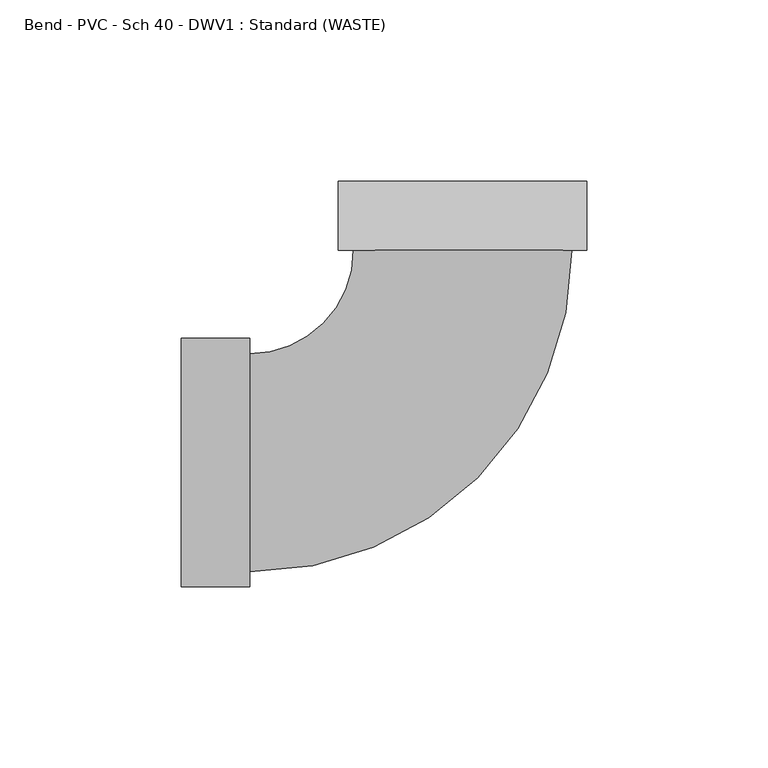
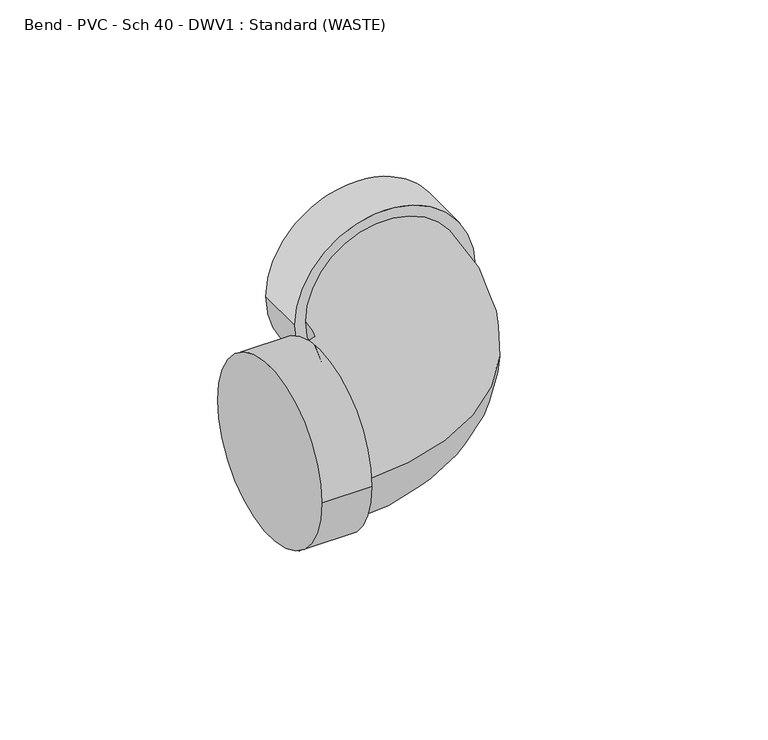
"""IFC4 building model written with IfcOpenShell, lengths in millimetres: pipe fitting geometry, Bend - PVC - Sch 40 - DWV1 : Standard (WASTE)."""

from ifc_helpers import new_model, si_unit, point, frame, origin, place, context, project, spatial, circle_curve, ellipse_curve, trimmed, source, transform, mapped, element, save
from ifc_brep_helpers import plane_surface, cylinder_surface, revolved_surface, advanced_brep


def bend_pvc_sch_40_dwv1_standard_waste_d5026f95(model_context):
    return source(origin(), model_context, "Body", "AdvancedBrep", [
        advanced_brep(
        [(-77.8002, -34.3154, 0.0), (-77.8002, 34.3154, 0.0), (-58.7502, -34.3154, 0.0), (-58.7502, 34.3154, 0.0), (-58.7502, -30.1625, 0.0), (-58.7502, 30.1625, 0.0), (-30.1630087, 58.7499388, 0.0), (30.1619913, 58.7504612, 0.0), (34.3148913, 58.7504971, 0.0), (-34.3159087, 58.7499028, 0.0), (34.3147263, 77.8004971, 0.0), (-34.3160737, 77.7999028, 0.0)],
        [
            (0, 1, circle_curve(frame((-77.8002, 0.0, 0.0), z_axis=(-1.0, 0.0, 0.0), x_axis=(0.0, 1.0, 0.0)), 34.3154)),
            (1, 0, circle_curve(frame((-77.8002, 0.0, 0.0), z_axis=(-1.0, 0.0, 0.0), x_axis=(0.0, 1.0, 0.0)), 34.3154)),
            (2, 3, circle_curve(frame((-58.7502, 0.0, 0.0), z_axis=(1.0, 0.0, 0.0), x_axis=(0.0, 1.0, 0.0)), 34.3154)),
            (3, 2, circle_curve(frame((-58.7502, 0.0, 0.0), z_axis=(1.0, 0.0, 0.0), x_axis=(0.0, 1.0, 0.0)), 34.3154)),
            (4, 5, circle_curve(frame((-58.7502, 0.0, 0.0), z_axis=(-1.0, 0.0, 0.0), x_axis=(0.0, 1.0, 0.0)), 30.1625)),
            (5, 4, circle_curve(frame((-58.7502, 0.0, 0.0), z_axis=(-1.0, 0.0, 0.0), x_axis=(0.0, 1.0, 0.0)), 30.1625)),
            (0, 2),
            (3, 1),
            (6, 5, circle_curve(frame((-58.7502, 58.7496913, 0.0), z_axis=(0.0, 0.0, -1.0), x_axis=(0.0, -1.0, 0.0)), 28.5871913)),
            (4, 7, circle_curve(frame((-58.7502, 58.7496913, 0.0), z_axis=(0.0, 0.0, 1.0), x_axis=(0.0, -1.0, 0.0)), 88.9121913)),
            (7, 6, circle_curve(frame((-0.0005087, 58.7502, 0.0), z_axis=(8.659433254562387e-06, -0.9999999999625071, 0.0), x_axis=(-0.9999999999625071, -8.659433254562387e-06, 0.0)), 30.1625)),
            (6, 7, circle_curve(frame((-0.0005087, 58.7502, 0.0), z_axis=(8.659433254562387e-06, -0.9999999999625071, 0.0), x_axis=(-0.9999999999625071, -8.659433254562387e-06, 0.0)), 30.1625)),
            (8, 9, circle_curve(frame((-0.0005087, 58.7502, 0.0), z_axis=(8.659433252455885e-06, -0.9999999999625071, 0.0), x_axis=(-0.9999999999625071, -8.659433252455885e-06, 0.0)), 34.3154)),
            (9, 8, circle_curve(frame((-0.0005087, 58.7502, 0.0), z_axis=(8.659433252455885e-06, -0.9999999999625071, 0.0), x_axis=(-0.9999999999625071, -8.659433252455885e-06, 0.0)), 34.3154)),
            (10, 11, circle_curve(frame((-0.0006737, 77.8002, 0.0), z_axis=(-8.659433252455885e-06, 0.9999999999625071, 0.0), x_axis=(-0.9999999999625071, -8.659433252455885e-06, 0.0)), 34.3154)),
            (11, 10, circle_curve(frame((-0.0006737, 77.8002, 0.0), z_axis=(-8.659433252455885e-06, 0.9999999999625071, 0.0), x_axis=(-0.9999999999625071, -8.659433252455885e-06, 0.0)), 34.3154)),
            (8, 10),
            (11, 9),
        ],
        [
            plane_surface(frame((-77.8002, 0.0, 0.0), z_axis=(-1.0, 0.0, 0.0), x_axis=(0.0, 0.0, 1.0))),
            plane_surface(frame((-58.7502, 0.0, 0.0), z_axis=(1.0, 0.0, 0.0), x_axis=(0.0, 0.0, 1.0))),
            cylinder_surface(frame((-77.8002, 0.0, 0.0), z_axis=(-1.0, 0.0, 0.0), x_axis=(0.0, 1.0, 0.0)), 34.3154),
            revolved_surface(trimmed(ellipse_curve(frame((-58.7502, 0.0, 0.0), z_axis=(-1.0, 0.0, 0.0), x_axis=(0.0, 1.0, 0.0)), 30.1625, 30.1625), [point((-58.7502, -30.1625, 0.0))], [point((-58.7502, 30.1625, 0.0))], True, "CARTESIAN"), (-58.7502, 58.7496913, 0.0), (0.0, 0.0, 1.0)),
            revolved_surface(trimmed(ellipse_curve(frame((-58.7502, 0.0, 0.0), z_axis=(-1.0, 0.0, 0.0), x_axis=(0.0, 1.0, 0.0)), 30.1625, 30.1625), [point((-58.7502, 30.1625, 0.0))], [point((-58.7502, -30.1625, 0.0))], True, "CARTESIAN"), (-58.7502, 58.7496913, 0.0), (0.0, 0.0, 1.0)),
            plane_surface(frame((-0.0005087, 58.7502, 0.0), z_axis=(8.659433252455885e-06, -0.9999999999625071, 0.0), x_axis=(0.0, 0.0, 1.0))),
            plane_surface(frame((-0.0006737, 77.8002, 0.0), z_axis=(-8.659433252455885e-06, 0.9999999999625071, 0.0), x_axis=(0.0, 0.0, 1.0))),
            cylinder_surface(frame((-0.0005087, 58.7502, 0.0), z_axis=(8.659433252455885e-06, -0.9999999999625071, 0.0), x_axis=(-0.9999999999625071, -8.659433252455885e-06, 0.0)), 34.3154),
        ],
        [
            (0, [[1, 2]]),
            (1, [[3, 4], [5, 6]]),
            (2, [[-1, 7, -4, 8]]),
            (2, [[-2, -8, -3, -7]]),
            (3, [[9, -5, 10, 11]]),
            (4, [[-9, 12, -10, -6]]),
            (5, [[13, 14], [-11, -12]]),
            (6, [[15, 16]]),
            (7, [[-13, 17, -16, 18]]),
            (7, [[-14, -18, -15, -17]]),
        ],
    ),
        advanced_brep(
        [(-77.8002, -34.3154, 0.0), (-77.8002, 34.3154, 0.0), (-58.7502, -34.3154, 0.0), (-58.7502, 34.3154, 0.0), (-58.7502, -30.1625, 0.0), (-58.7502, 30.1625, 0.0), (-34.3160737, 77.7999028, 0.0), (34.3147263, 77.8004971, 0.0), (-34.3159087, 58.7499028, 0.0), (34.3148913, 58.7504971, 0.0), (-30.1630087, 58.7499388, 0.0), (30.1619913, 58.7504612, 0.0)],
        [
            (0, 1, circle_curve(frame((-77.8002, 0.0, 0.0), z_axis=(-1.0, 0.0, 0.0), x_axis=(0.0, 1.0, 0.0)), 34.3154)),
            (1, 0, circle_curve(frame((-77.8002, 0.0, 0.0), z_axis=(-1.0, 0.0, 0.0), x_axis=(0.0, 1.0, 0.0)), 34.3154)),
            (2, 3, circle_curve(frame((-58.7502, 0.0, 0.0), z_axis=(1.0, 0.0, 0.0), x_axis=(0.0, 1.0, 0.0)), 34.3154)),
            (3, 2, circle_curve(frame((-58.7502, 0.0, 0.0), z_axis=(1.0, 0.0, 0.0), x_axis=(0.0, 1.0, 0.0)), 34.3154)),
            (4, 5, circle_curve(frame((-58.7502, 0.0, 0.0), z_axis=(-1.0, 0.0, 0.0), x_axis=(0.0, 1.0, 0.0)), 30.1625)),
            (5, 4, circle_curve(frame((-58.7502, 0.0, 0.0), z_axis=(-1.0, 0.0, 0.0), x_axis=(0.0, 1.0, 0.0)), 30.1625)),
            (0, 2),
            (3, 1),
            (6, 7, circle_curve(frame((-0.0006737, 77.8002, 0.0), z_axis=(-8.659433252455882e-06, 0.9999999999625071, 0.0), x_axis=(0.9999999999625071, 8.659433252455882e-06, 0.0)), 34.3154)),
            (7, 6, circle_curve(frame((-0.0006737, 77.8002, 0.0), z_axis=(-8.659433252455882e-06, 0.9999999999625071, 0.0), x_axis=(0.9999999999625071, 8.659433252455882e-06, 0.0)), 34.3154)),
            (8, 9, circle_curve(frame((-0.0005087, 58.7502, 0.0), z_axis=(8.659433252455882e-06, -0.9999999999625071, 0.0), x_axis=(0.9999999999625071, 8.659433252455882e-06, 0.0)), 34.3154)),
            (9, 8, circle_curve(frame((-0.0005087, 58.7502, 0.0), z_axis=(8.659433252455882e-06, -0.9999999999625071, 0.0), x_axis=(0.9999999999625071, 8.659433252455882e-06, 0.0)), 34.3154)),
            (10, 11, circle_curve(frame((-0.0005087, 58.7502, 0.0), z_axis=(-8.659433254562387e-06, 0.9999999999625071, 0.0), x_axis=(-0.9999999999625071, -8.659433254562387e-06, 0.0)), 30.1625)),
            (11, 10, circle_curve(frame((-0.0005087, 58.7502, 0.0), z_axis=(-8.659433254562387e-06, 0.9999999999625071, 0.0), x_axis=(-0.9999999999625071, -8.659433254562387e-06, 0.0)), 30.1625)),
            (6, 8),
            (9, 7),
            (10, 5, circle_curve(frame((-58.7502, 58.7496913, 0.0), z_axis=(0.0, 0.0, -1.0), x_axis=(0.0, -1.0, 0.0)), 28.5871913)),
            (4, 11, circle_curve(frame((-58.7502, 58.7496913, 0.0), z_axis=(0.0, 0.0, 1.0), x_axis=(0.0, -1.0, 0.0)), 88.9121913)),
        ],
        [
            plane_surface(frame((-77.8002, 0.0, 0.0), z_axis=(-1.0, 0.0, 0.0), x_axis=(0.0, 0.0, 1.0))),
            plane_surface(frame((-58.7502, 0.0, 0.0), z_axis=(1.0, 0.0, 0.0), x_axis=(0.0, 0.0, 1.0))),
            cylinder_surface(frame((-77.8002, 0.0, 0.0), z_axis=(-1.0, 0.0, 0.0), x_axis=(0.0, 1.0, 0.0)), 34.3154),
            plane_surface(frame((-0.0006737, 77.8002, 0.0), z_axis=(-8.659433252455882e-06, 0.9999999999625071, 0.0), x_axis=(0.0, 0.0, 1.0))),
            plane_surface(frame((-0.0005087, 58.7502, 0.0), z_axis=(8.659433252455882e-06, -0.9999999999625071, 0.0), x_axis=(0.0, 0.0, 1.0))),
            cylinder_surface(frame((-0.0006737, 77.8002, 0.0), z_axis=(-8.659433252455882e-06, 0.9999999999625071, 0.0), x_axis=(0.9999999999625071, 8.659433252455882e-06, 0.0)), 34.3154),
            revolved_surface(trimmed(ellipse_curve(frame((-58.7502, 0.0, 0.0), z_axis=(-1.0, 0.0, 0.0), x_axis=(0.0, 1.0, 0.0)), 30.1625, 30.1625), [point((-58.7502, -30.1625, 0.0))], [point((-58.7502, 30.1625, 0.0))], True, "CARTESIAN"), (-58.7502, 58.7496913, 0.0), (0.0, 0.0, 1.0)),
            revolved_surface(trimmed(ellipse_curve(frame((-58.7502, 0.0, 0.0), z_axis=(-1.0, 0.0, 0.0), x_axis=(0.0, 1.0, 0.0)), 30.1625, 30.1625), [point((-58.7502, 30.1625, 0.0))], [point((-58.7502, -30.1625, 0.0))], True, "CARTESIAN"), (-58.7502, 58.7496913, 0.0), (0.0, 0.0, 1.0)),
        ],
        [
            (0, [[1, 2]]),
            (1, [[3, 4], [5, 6]]),
            (2, [[-1, 7, -4, 8]]),
            (2, [[-2, -8, -3, -7]]),
            (3, [[9, 10]]),
            (4, [[11, 12], [13, 14]]),
            (5, [[-9, 15, -12, 16]]),
            (5, [[-10, -16, -11, -15]]),
            (6, [[17, -5, 18, -13]]),
            (7, [[-17, -14, -18, -6]]),
        ],
    ),
    ])


if __name__ == "__main__":
    model = new_model("IFC4")
    model_context = context("Model", 3, world=origin())
    ifc_project = project(units=[si_unit("LENGTHUNIT", "METRE", prefix="MILLI")], contexts=[model_context])
    site = spatial("IfcSite", under=ifc_project)
    building = spatial("IfcBuilding", under=site)
    placement = place(None, origin())
    bend_pvc_sch_40_dwv1_standard_waste_shape = bend_pvc_sch_40_dwv1_standard_waste_d5026f95(model_context)
    element("IfcPipeFitting", 1, ObjectType="Bend - PVC - Sch 40 - DWV1 : Standard (WASTE)", at=placement, inside=building, context=model_context, shape_type="MappedRepresentation", body=[
        mapped(bend_pvc_sch_40_dwv1_standard_waste_shape, transform((0.0, 0.0, 0.0), x_axis=(1.0, 0.0, 0.0), y_axis=(0.0, 1.0, 0.0), z_axis=(0.0, 0.0, 1.0))),
    ])
    save(model, "model.ifc")
